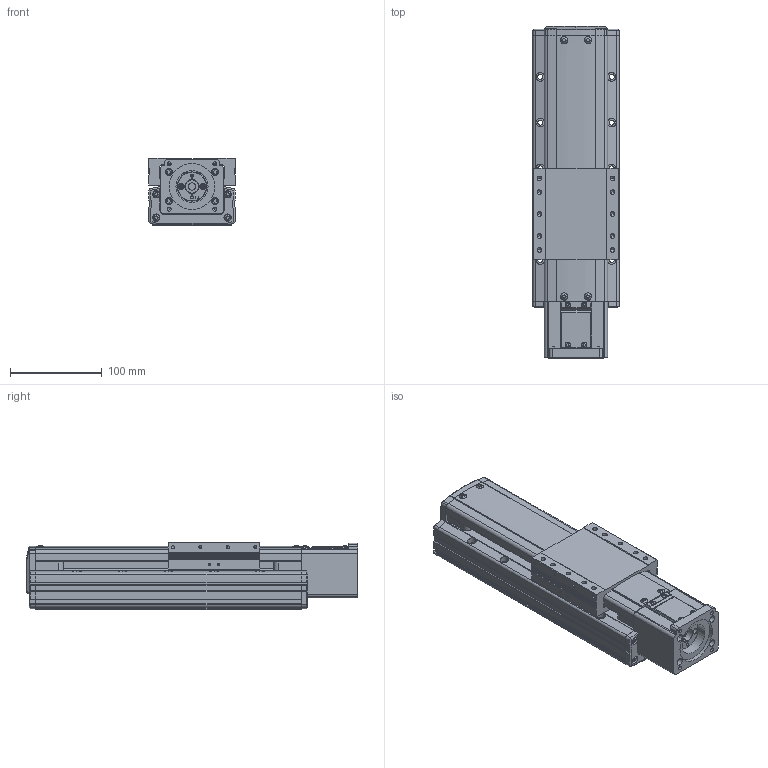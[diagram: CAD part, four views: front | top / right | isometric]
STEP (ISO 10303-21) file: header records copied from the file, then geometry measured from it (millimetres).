
FILE_DESCRIPTION(('STEP AP214'),'1');
FILE_NAME('Z:/Web/3D/PSA95/STP/PSA95-100 (3D)/PSA95ㅁㅁ-100S.stp','2014-07-02T23:29:44',(' '),(' '),'Spatial InterOp 3D',' ',' ');
FILE_SCHEMA(('automotive_design'));
Length unit declared in the file: millimetre
Products named in the file (35): BASE; RRCV; 스크루 : Round - M4.0 x 10.0; 너트 : Square - M10.0 x 220.7419; RR1500; FRCV-090; 스크루 : Round - M4.0 x 6.0; SLBL-PA90; SSFX-SAN65; CPLCV-SAN65; 스크루 : Round - M3.0 x 6.0; MTHZ-PA70/90-S60A-3; 스크루 : Socket - M4.0 x 20.0; NONE
Bounding box: 95 x 362.5 x 74 mm (x, y, z)
Volume: 1895258.4 mm3; surface area: 272150.8 mm2
Topology: 35 solids, 69 shells, 2963 faces, 7584 edges, 4788 vertices
Faces by surface type: plane 1450, cylinder 918, cone 359, torus 158, sphere 46, bspline 32
Entity records: 116816 total; most frequent: CARTESIAN_POINT 19287, DIRECTION 15884, ORIENTED_EDGE 14928, EDGE_CURVE 7464, AXIS2_PLACEMENT_3D 5667, VERTEX_POINT 4788, LINE 4550, VECTOR 4550
